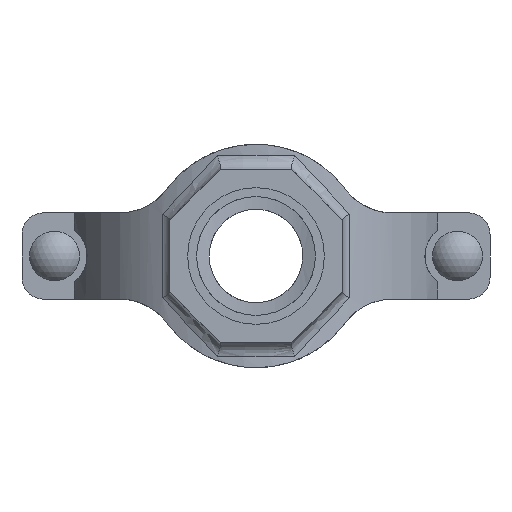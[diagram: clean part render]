
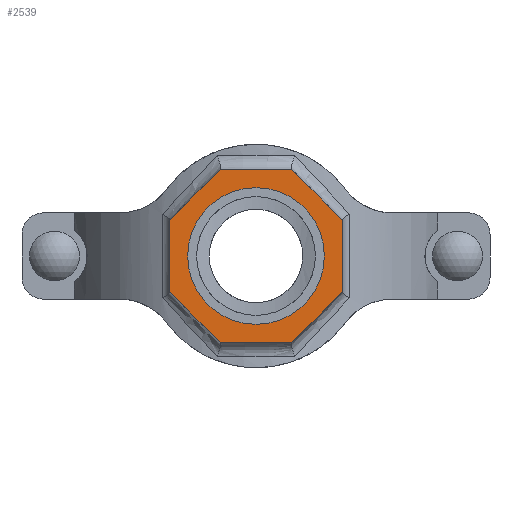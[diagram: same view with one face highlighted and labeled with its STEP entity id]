
A CAD part, front view. The second image highlights one B-rep face of the part: STEP entity #2539.
In plain terms, the highlighted planar face has unit normal (0, -1, 0) as drawn and (0, 1, 0) by its records, which use the part's own axes.
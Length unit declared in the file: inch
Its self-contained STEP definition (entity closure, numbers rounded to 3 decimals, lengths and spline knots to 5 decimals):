
#186=FACE_BOUND('',#459,.T.);
#307=FACE_OUTER_BOUND('',#458,.T.);
#458=EDGE_LOOP('',(#2138,#2139,#2140,#2141,#2142,#2143,#2144,#2145));
#459=EDGE_LOOP('',(#2146));
#594=LINE('',#4823,#780);
#597=LINE('',#4828,#783);
#599=LINE('',#4832,#785);
#601=LINE('',#4836,#787);
#641=LINE('',#5293,#827);
#643=LINE('',#5297,#829);
#645=LINE('',#5301,#831);
#647=LINE('',#5304,#833);
#780=VECTOR('',#3278,0.3937);
#783=VECTOR('',#3283,0.3937);
#785=VECTOR('',#3287,0.3937);
#787=VECTOR('',#3291,0.3937);
#827=VECTOR('',#3427,0.3937);
#829=VECTOR('',#3431,0.3937);
#831=VECTOR('',#3435,0.3937);
#833=VECTOR('',#3439,0.3937);
#919=CIRCLE('',#2802,1.1875);
#1097=VERTEX_POINT('',#4820);
#1098=VERTEX_POINT('',#4822);
#1099=VERTEX_POINT('',#4826);
#1100=VERTEX_POINT('',#4830);
#1101=VERTEX_POINT('',#4834);
#1136=VERTEX_POINT('',#5130);
#1160=VERTEX_POINT('',#5292);
#1161=VERTEX_POINT('',#5296);
#1162=VERTEX_POINT('',#5300);
#1408=EDGE_CURVE('',#1098,#1097,#594,.T.);
#1411=EDGE_CURVE('',#1097,#1099,#597,.T.);
#1413=EDGE_CURVE('',#1099,#1100,#599,.T.);
#1415=EDGE_CURVE('',#1100,#1101,#601,.T.);
#1461=EDGE_CURVE('',#1136,#1136,#919,.T.);
#1495=EDGE_CURVE('',#1160,#1098,#641,.T.);
#1497=EDGE_CURVE('',#1161,#1160,#643,.T.);
#1499=EDGE_CURVE('',#1162,#1161,#645,.T.);
#1501=EDGE_CURVE('',#1101,#1162,#647,.T.);
#2138=ORIENTED_EDGE('',*,*,#1501,.T.);
#2139=ORIENTED_EDGE('',*,*,#1499,.T.);
#2140=ORIENTED_EDGE('',*,*,#1497,.T.);
#2141=ORIENTED_EDGE('',*,*,#1495,.T.);
#2142=ORIENTED_EDGE('',*,*,#1408,.T.);
#2143=ORIENTED_EDGE('',*,*,#1411,.T.);
#2144=ORIENTED_EDGE('',*,*,#1413,.T.);
#2145=ORIENTED_EDGE('',*,*,#1415,.T.);
#2146=ORIENTED_EDGE('',*,*,#1461,.T.);
#2280=PLANE('',#2825);
#2539=ADVANCED_FACE('',(#307,#186),#2280,.T.);
#2802=AXIS2_PLACEMENT_3D('',#5131,#3369,#3370);
#2825=AXIS2_PLACEMENT_3D('',#5305,#3440,#3441);
#3278=DIRECTION('',(0.,0.,1.));
#3283=DIRECTION('',(0.707,0.,0.707));
#3287=DIRECTION('',(1.,0.,0.));
#3291=DIRECTION('',(0.707,0.,-0.707));
#3369=DIRECTION('center_axis',(0.,-1.,0.));
#3370=DIRECTION('ref_axis',(-1.,0.,0.));
#3427=DIRECTION('',(-0.707,0.,0.707));
#3431=DIRECTION('',(-1.,0.,0.));
#3435=DIRECTION('',(-0.707,0.,-0.707));
#3439=DIRECTION('',(0.,0.,-1.));
#3440=DIRECTION('center_axis',(0.,1.,0.));
#3441=DIRECTION('ref_axis',(0.,0.,1.));
#4820=CARTESIAN_POINT('',(-1.5,4.5,0.62132));
#4822=CARTESIAN_POINT('',(-1.5,4.5,-0.62132));
#4823=CARTESIAN_POINT('',(-1.5,4.5,0.62132));
#4826=CARTESIAN_POINT('',(-0.62132,4.5,1.5));
#4828=CARTESIAN_POINT('',(-0.62132,4.5,1.5));
#4830=CARTESIAN_POINT('',(0.62132,4.5,1.5));
#4832=CARTESIAN_POINT('',(0.62132,4.5,1.5));
#4834=CARTESIAN_POINT('',(1.5,4.5,0.62132));
#4836=CARTESIAN_POINT('',(1.5,4.5,0.62132));
#5130=CARTESIAN_POINT('',(1.1875,4.5,0.));
#5131=CARTESIAN_POINT('Origin',(0.,4.5,0.));
#5292=CARTESIAN_POINT('',(-0.62132,4.5,-1.5));
#5293=CARTESIAN_POINT('',(-1.5,4.5,-0.62132));
#5296=CARTESIAN_POINT('',(0.62132,4.5,-1.5));
#5297=CARTESIAN_POINT('',(-0.62132,4.5,-1.5));
#5300=CARTESIAN_POINT('',(1.5,4.5,-0.62132));
#5301=CARTESIAN_POINT('',(0.62132,4.5,-1.5));
#5304=CARTESIAN_POINT('',(1.5,4.5,-0.62132));
#5305=CARTESIAN_POINT('Origin',(0.,4.5,0.));
